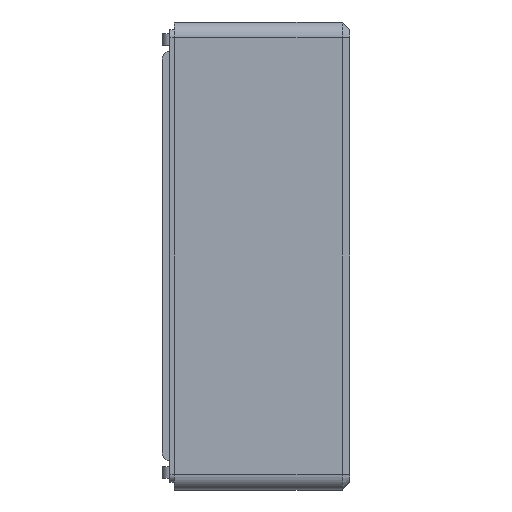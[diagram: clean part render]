
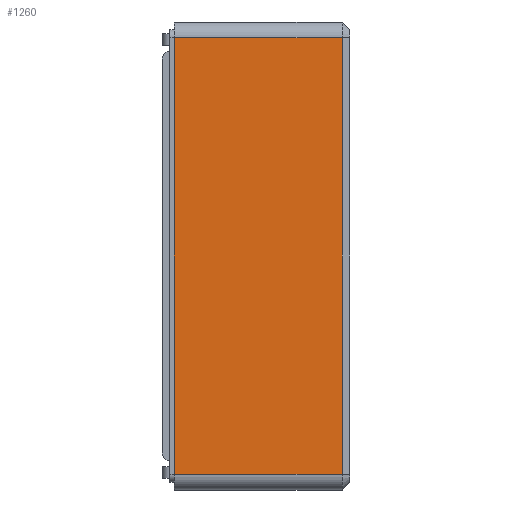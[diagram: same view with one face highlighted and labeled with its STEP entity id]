
A CAD part, left-side view. The second image highlights one B-rep face of the part: STEP entity #1260.
In plain terms, the highlighted planar face has unit normal (-1, 0, 0).
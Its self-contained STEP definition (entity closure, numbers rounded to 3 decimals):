
#94 = DIRECTION ( 'NONE',  ( 0., 0., 1. ) ) ;
#106 = VECTOR ( 'NONE', #812, 1000. ) ;
#188 = EDGE_CURVE ( 'NONE', #1980, #4014, #243, .T. ) ;
#189 = LINE ( 'NONE', #5282, #2409 ) ;
#243 = LINE ( 'NONE', #4150, #2473 ) ;
#341 = CARTESIAN_POINT ( 'NONE',  ( -65.5, 1., 28. ) ) ;
#496 = EDGE_CURVE ( 'NONE', #1980, #1162, #2337, .T. ) ;
#765 = ORIENTED_EDGE ( 'NONE', *, *, #5272, .T. ) ;
#812 = DIRECTION ( 'NONE',  ( 0., -1., 0. ) ) ;
#960 = AXIS2_PLACEMENT_3D ( 'NONE', #1085, #4109, #1563 ) ;
#986 = CARTESIAN_POINT ( 'NONE',  ( -65.5, 22.5, 28. ) ) ;
#1071 = CARTESIAN_POINT ( 'NONE',  ( -65.5, 22.5, 28. ) ) ;
#1085 = CARTESIAN_POINT ( 'NONE',  ( -65.5, 22.5, -30. ) ) ;
#1162 = VERTEX_POINT ( 'NONE', #5027 ) ;
#1245 = LINE ( 'NONE', #986, #3412 ) ;
#1260 = ADVANCED_FACE ( 'NONE', ( #2311 ), #4516, .F. ) ;
#1563 = DIRECTION ( 'NONE',  ( 0., 0., -1. ) ) ;
#1980 = VERTEX_POINT ( 'NONE', #2664 ) ;
#2311 = FACE_OUTER_BOUND ( 'NONE', #4166, .T. ) ;
#2337 = LINE ( 'NONE', #2588, #106 ) ;
#2409 = VECTOR ( 'NONE', #94, 1000. ) ;
#2461 = ORIENTED_EDGE ( 'NONE', *, *, #188, .F. ) ;
#2473 = VECTOR ( 'NONE', #4097, 1000. ) ;
#2588 = CARTESIAN_POINT ( 'NONE',  ( -65.5, 22.5, -28. ) ) ;
#2664 = CARTESIAN_POINT ( 'NONE',  ( -65.5, 22.5, -28. ) ) ;
#3382 = ORIENTED_EDGE ( 'NONE', *, *, #5238, .T. ) ;
#3412 = VECTOR ( 'NONE', #4039, 1000. ) ;
#3800 = ORIENTED_EDGE ( 'NONE', *, *, #496, .T. ) ;
#4014 = VERTEX_POINT ( 'NONE', #1071 ) ;
#4039 = DIRECTION ( 'NONE',  ( 0., 1., 0. ) ) ;
#4097 = DIRECTION ( 'NONE',  ( 0., 0., 1. ) ) ;
#4109 = DIRECTION ( 'NONE',  ( 1., 0., 0. ) ) ;
#4130 = VERTEX_POINT ( 'NONE', #341 ) ;
#4150 = CARTESIAN_POINT ( 'NONE',  ( -65.5, 22.5, -30. ) ) ;
#4166 = EDGE_LOOP ( 'NONE', ( #3800, #3382, #765, #2461 ) ) ;
#4516 = PLANE ( 'NONE',  #960 ) ;
#5027 = CARTESIAN_POINT ( 'NONE',  ( -65.5, 1., -28. ) ) ;
#5238 = EDGE_CURVE ( 'NONE', #1162, #4130, #189, .T. ) ;
#5272 = EDGE_CURVE ( 'NONE', #4130, #4014, #1245, .T. ) ;
#5282 = CARTESIAN_POINT ( 'NONE',  ( -65.5, 1., -30. ) ) ;
